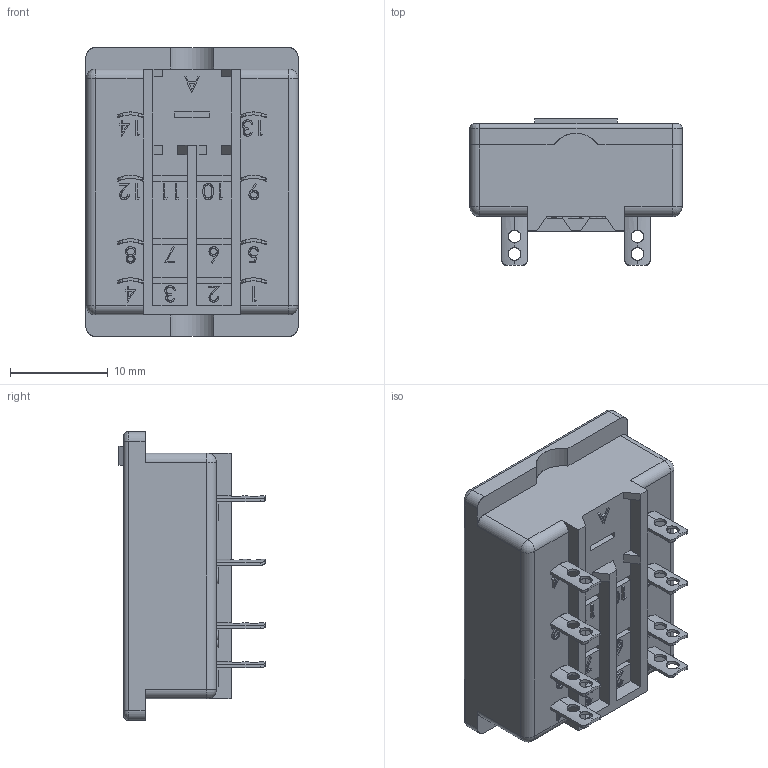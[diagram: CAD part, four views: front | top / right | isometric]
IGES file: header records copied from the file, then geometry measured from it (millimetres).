
Start section: SolidWorks IGES file using analytic representation for surfaces
Global section: file name: D:\X - Arquivos\PROEX\Empresas\P11 - METALTEX\01 - Produtos\IGES\7ª remessa\2ª etapa\MSO2T.IGS; native system: SolidWorks 2012; preprocessor: SolidWorks 2012; author: Usuario; date: 190912.135631; units: millimetre
Bounding box: 21.75 x 15 x 29.6 mm (x, y, z)
Surface area: 3315.9 mm2 (no closed solid volume)
Topology: 0 solids, 0 shells, 621 faces, 6026 edges, 6022 vertices
Faces by surface type: bspline 515, revolution 106
